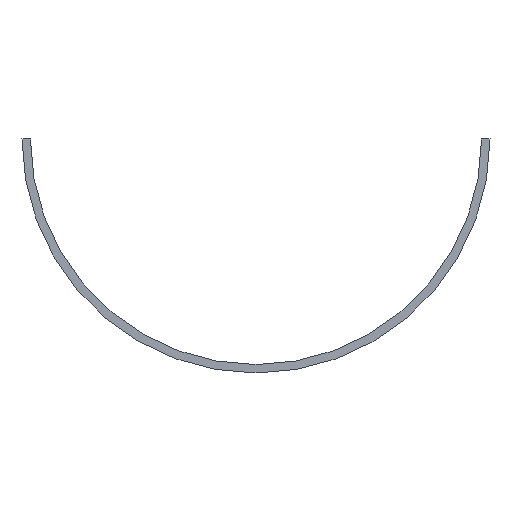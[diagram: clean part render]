
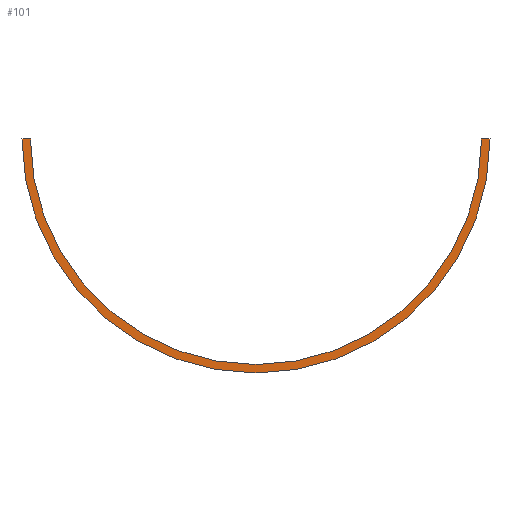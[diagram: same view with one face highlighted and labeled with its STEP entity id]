
A CAD part, front view. The second image highlights one B-rep face of the part: STEP entity #101.
In plain terms, the highlighted planar face has unit normal (0, -1, 0).
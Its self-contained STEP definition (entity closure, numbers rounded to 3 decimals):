
#14=FACE_OUTER_BOUND($,#20,.T.);
#20=EDGE_LOOP($,(#66,#67,#68,#69));
#26=CIRCLE($,#111,20.);
#27=CIRCLE($,#112,20.75);
#30=LINE($,#154,#38);
#31=LINE($,#158,#39);
#38=VECTOR($,#124,0.75);
#39=VECTOR($,#127,0.75);
#46=VERTEX_POINT($,#152);
#47=VERTEX_POINT($,#153);
#48=VERTEX_POINT($,#155);
#49=VERTEX_POINT($,#157);
#54=EDGE_CURVE($,#46,#47,#30,.T.);
#55=EDGE_CURVE($,#48,#46,#26,.T.);
#56=EDGE_CURVE($,#49,#48,#31,.T.);
#57=EDGE_CURVE($,#47,#49,#27,.T.);
#66=ORIENTED_EDGE($,*,*,#54,.F.);
#67=ORIENTED_EDGE($,*,*,#55,.F.);
#68=ORIENTED_EDGE($,*,*,#56,.F.);
#69=ORIENTED_EDGE($,*,*,#57,.F.);
#90=PLANE($,#110);
#101=ADVANCED_FACE($,(#14),#90,.F.);
#110=AXIS2_PLACEMENT_3D($,#151,#122,#123);
#111=AXIS2_PLACEMENT_3D($,#156,#125,#126);
#112=AXIS2_PLACEMENT_3D($,#159,#128,#129);
#122=DIRECTION('center_axis',(0.,1.,0.));
#123=DIRECTION('ref_axis',(0.,0.,1.));
#124=DIRECTION($,(1.,0.,0.));
#125=DIRECTION('center_axis',(0.,-1.,0.));
#126=DIRECTION('ref_axis',(-1.,0.,0.));
#127=DIRECTION($,(1.,0.,0.));
#128=DIRECTION('center_axis',(0.,1.,0.));
#129=DIRECTION('ref_axis',(1.,0.,0.));
#151=CARTESIAN_POINT('Origin',(0.,-1500.,-11.563));
#152=CARTESIAN_POINT('',(20.,-1500.,0.));
#153=CARTESIAN_POINT('',(20.75,-1500.,0.));
#154=CARTESIAN_POINT($,(20.,-1500.,0.));
#155=CARTESIAN_POINT('',(-20.,-1500.,0.));
#156=CARTESIAN_POINT('Origin',(0.,-1500.,0.));
#157=CARTESIAN_POINT('',(-20.75,-1500.,0.));
#158=CARTESIAN_POINT($,(-20.75,-1500.,0.));
#159=CARTESIAN_POINT('Origin',(0.,-1500.,0.));
